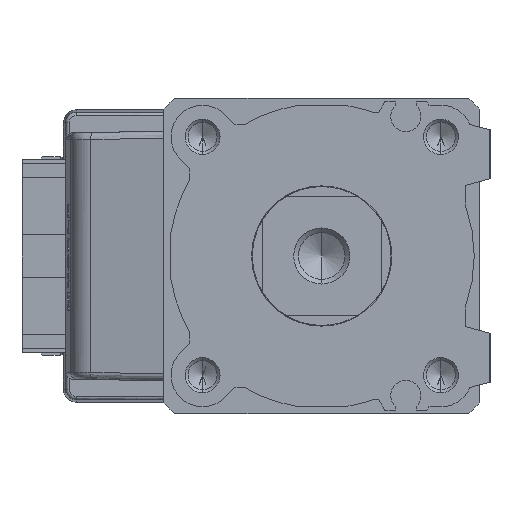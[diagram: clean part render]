
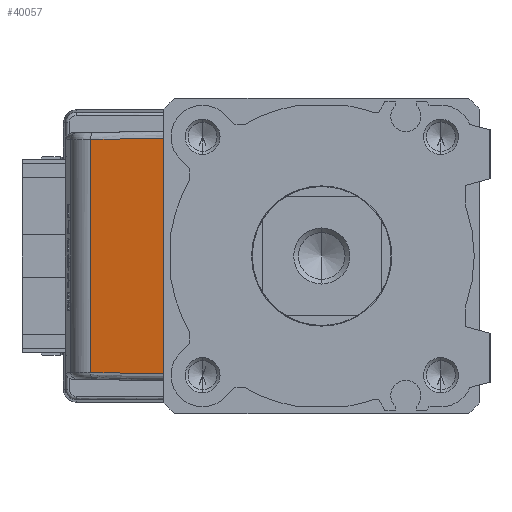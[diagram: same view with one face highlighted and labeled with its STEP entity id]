
A CAD part, left-side view. The second image highlights one B-rep face of the part: STEP entity #40057.
In plain terms, the highlighted planar face has unit normal (-0.985, 0.174, 0) as drawn and (0, 0.174, 0.985) by its records, which use the part's own axes.
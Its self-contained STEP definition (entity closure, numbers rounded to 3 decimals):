
#1559 = LINE ( 'NONE', #14079, #2766 ) ;
#1974 = ORIENTED_EDGE ( 'NONE', *, *, #6598, .T. ) ;
#2121 = VERTEX_POINT ( 'NONE', #7954 ) ;
#2766 = VECTOR ( 'NONE', #13882, 1000. ) ;
#4028 = DIRECTION ( 'NONE',  ( 1., 0., 0. ) ) ;
#4151 = ORIENTED_EDGE ( 'NONE', *, *, #17743, .T. ) ;
#4269 = ORIENTED_EDGE ( 'NONE', *, *, #28796, .T. ) ;
#5520 = LINE ( 'NONE', #26634, #16900 ) ;
#5529 = EDGE_LOOP ( 'NONE', ( #4151, #35516, #1974, #4269 ) ) ;
#6598 = EDGE_CURVE ( 'NONE', #2121, #7351, #30549, .T. ) ;
#7351 = VERTEX_POINT ( 'NONE', #32172 ) ;
#7954 = CARTESIAN_POINT ( 'NONE',  ( -16.825, 21., -38.277 ) ) ;
#9693 = VECTOR ( 'NONE', #31844, 1000. ) ;
#13845 = LINE ( 'NONE', #35497, #9693 ) ;
#13882 = DIRECTION ( 'NONE',  ( -0.017, -0.985, 0.174 ) ) ;
#14079 = CARTESIAN_POINT ( 'NONE',  ( -16.825, 20.983, -38.274 ) ) ;
#15203 = CARTESIAN_POINT ( 'NONE',  ( 0., 21., -38.277 ) ) ;
#16561 = CARTESIAN_POINT ( 'NONE',  ( 0., 21.26, -38.323 ) ) ;
#16900 = VECTOR ( 'NONE', #23587, 1000. ) ;
#17070 = CARTESIAN_POINT ( 'NONE',  ( 16.617, 32.922, -40.379 ) ) ;
#17743 = EDGE_CURVE ( 'NONE', #34796, #34711, #5520, .T. ) ;
#19538 = CARTESIAN_POINT ( 'NONE',  ( -16.617, 32.922, -40.379 ) ) ;
#21219 = EDGE_CURVE ( 'NONE', #34711, #2121, #1559, .T. ) ;
#23587 = DIRECTION ( 'NONE',  ( -1., 0., 0. ) ) ;
#25344 = PLANE ( 'NONE',  #33262 ) ;
#25731 = FACE_OUTER_BOUND ( 'NONE', #5529, .T. ) ;
#26634 = CARTESIAN_POINT ( 'NONE',  ( -17.568, 32.922, -40.379 ) ) ;
#26762 = DIRECTION ( 'NONE',  ( 0., -0.174, -0.985 ) ) ;
#28796 = EDGE_CURVE ( 'NONE', #7351, #34796, #13845, .T. ) ;
#30549 = LINE ( 'NONE', #15203, #37754 ) ;
#31844 = DIRECTION ( 'NONE',  ( -0.017, 0.985, -0.174 ) ) ;
#32172 = CARTESIAN_POINT ( 'NONE',  ( 16.825, 21., -38.277 ) ) ;
#33262 = AXIS2_PLACEMENT_3D ( 'NONE', #16561, #26762, #4028 ) ;
#33391 = DIRECTION ( 'NONE',  ( 1., 0., 0. ) ) ;
#34711 = VERTEX_POINT ( 'NONE', #19538 ) ;
#34796 = VERTEX_POINT ( 'NONE', #17070 ) ;
#35497 = CARTESIAN_POINT ( 'NONE',  ( 16.617, 32.905, -40.376 ) ) ;
#35516 = ORIENTED_EDGE ( 'NONE', *, *, #21219, .T. ) ;
#37754 = VECTOR ( 'NONE', #33391, 1000. ) ;
#40057 = ADVANCED_FACE ( 'NONE', ( #25731 ), #25344, .F. ) ;
